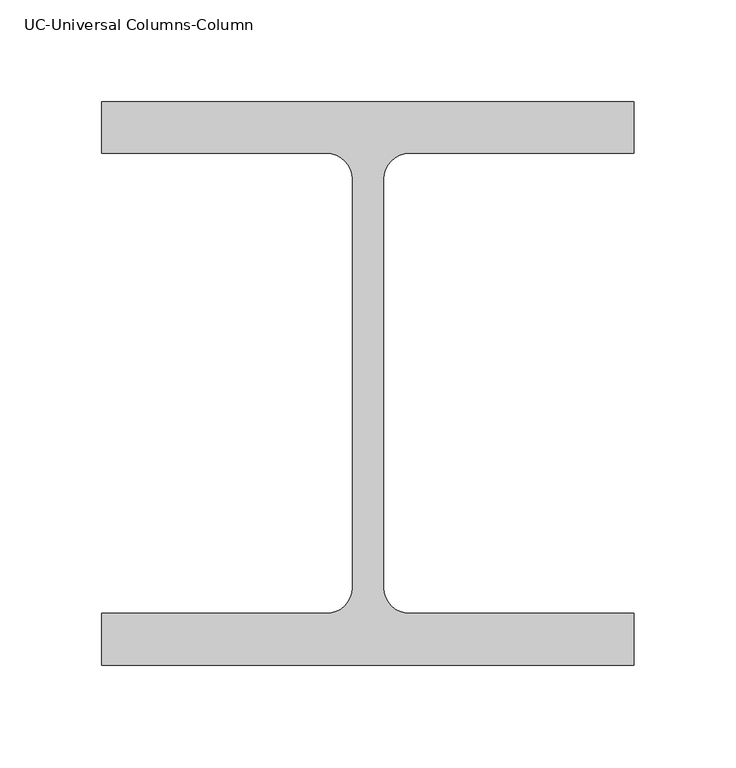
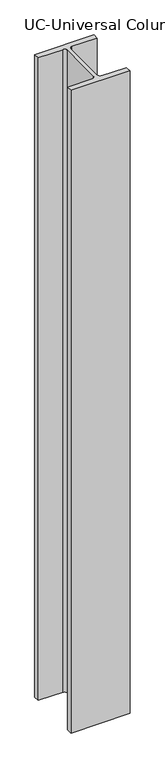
"""IFC4 building model written with IfcOpenShell, lengths in millimetres: column geometry."""

from ifc_helpers import new_model, si_unit, point, frame, frame_2d, origin, place, context, project, spatial, polyline, circle_curve, trimmed, segment, composite_curve, outline, extrude, source, transform, mapped, element, save


def uc_universal_columns_column_9b15f2e4(model_context):
    return source(origin(), model_context, "Body", "SweptSolid", [
        extrude(outline(composite_curve([segment(polyline([(130.65, 138.15), (130.65, 112.85), (20.35, 112.85)]), True, "CONTINUOUS"), segment(trimmed(circle_curve(frame_2d((20.35, 100.15)), 12.7), [point((20.35, 112.85))], [point((7.65, 100.15))], True, "CARTESIAN"), True, "CONTINUOUS"), segment(polyline([(7.65, 100.15), (7.65, -100.15)]), True, "CONTINUOUS"), segment(trimmed(circle_curve(frame_2d((20.35, -100.15)), 12.7), [point((7.65, -100.15))], [point((20.35, -112.85))], True, "CARTESIAN"), True, "CONTINUOUS"), segment(polyline([(20.35, -112.85), (130.65, -112.85), (130.65, -138.15), (-130.65, -138.15), (-130.65, -112.85), (-20.35, -112.85)]), True, "CONTINUOUS"), segment(trimmed(circle_curve(frame_2d((-20.35, -100.15)), 12.7), [point((-20.35, -112.85))], [point((-7.65, -100.15))], True, "CARTESIAN"), True, "CONTINUOUS"), segment(polyline([(-7.65, -100.15), (-7.65, 100.15)]), True, "CONTINUOUS"), segment(trimmed(circle_curve(frame_2d((-20.35, 100.15)), 12.7), [point((-7.65, 100.15))], [point((-20.35, 112.85))], True, "CARTESIAN"), True, "CONTINUOUS"), segment(polyline([(-20.35, 112.85), (-130.65, 112.85), (-130.65, 138.15), (130.65, 138.15)]), True, "CONTINUOUS")], self_intersect=False)), frame((0.0, 0.0, 4595.0), z_axis=(0.0, 0.0, 1.0), x_axis=(1.0, 0.0, 0.0)), (0.0, 0.0, 1.0), 3000.0),
    ])


if __name__ == "__main__":
    model = new_model("IFC4")
    model_context = context("Model", 3, world=origin())
    ifc_project = project(units=[si_unit("LENGTHUNIT", "METRE", prefix="MILLI")], contexts=[model_context])
    site = spatial("IfcSite", under=ifc_project)
    building = spatial("IfcBuilding", under=site)
    placement = place(None, origin())
    uc_universal_columns_column_shape = uc_universal_columns_column_9b15f2e4(model_context)
    element("IfcColumn", 1, ObjectType="UC-Universal Columns-Column : UC 10\" x 10\" x 5 1/2\"", at=placement, inside=building, context=model_context, shape_type="MappedRepresentation", body=[
        mapped(uc_universal_columns_column_shape, transform((0.0, 0.0, 0.0), x_axis=(1.0, 0.0, 0.0), y_axis=(0.0, 1.0, 0.0), z_axis=(0.0, 0.0, 1.0))),
    ])
    save(model, "model.ifc")
